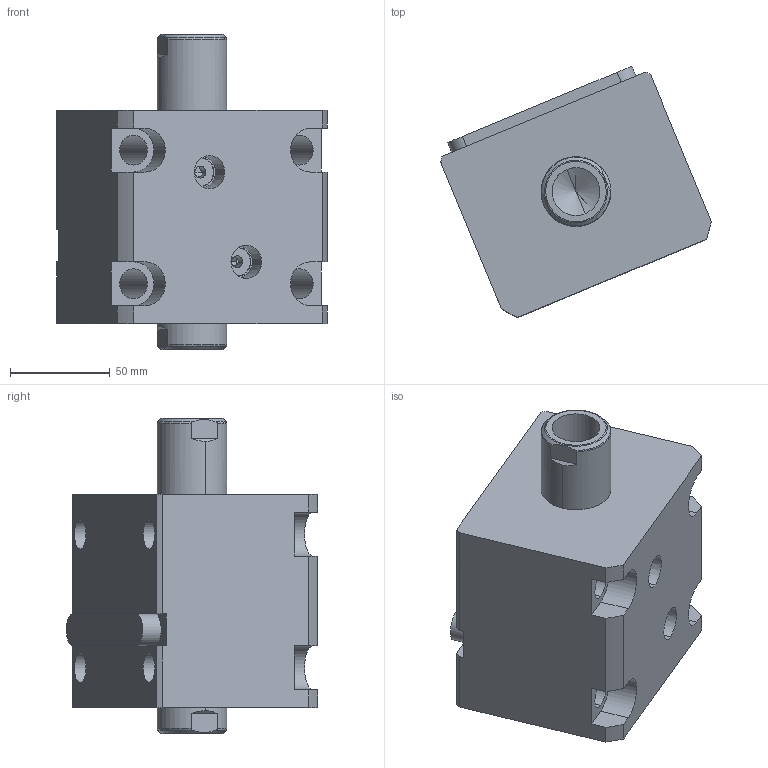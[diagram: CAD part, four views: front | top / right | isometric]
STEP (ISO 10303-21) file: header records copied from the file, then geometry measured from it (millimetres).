
FILE_DESCRIPTION (( 'STEP AP214' ), '1' );
FILE_NAME ('chtb-lw63x25n_asm.STEP', '2018-05-03T07:06:56', ( 'Windows' ), ( 'Microsoft' ), 'SwSTEP 2.0', 'SolidWorks 2015', '' );
FILE_SCHEMA (( 'AUTOMOTIVE_DESIGN' ));
Length unit declared in the file: millimetre
Products named in the file (5): CHTB-SW63X25NHSG; CHTB-LW63X25NBT; CHTB-LA63PJ; CHTB-63QG; chtb-lw63x25n_asm
Assembly tree (4 placements, depth 2):
  chtb-lw63x25n_asm
    CHTB-63QG
    CHTB-LA63PJ
    CHTB-LW63X25NBT
    CHTB-SW63X25NHSG
Bounding box: 135.77 x 126.06 x 158 mm (x, y, z)
Volume: 980609.1 mm3; surface area: 151028.7 mm2
Topology: 4 solids, 4 shells, 194 faces, 563 edges, 381 vertices
Faces by surface type: cylinder 104, plane 50, cone 16, bspline 12, torus 12
Entity records: 18887 total; most frequent: CARTESIAN_POINT 13868, ORIENTED_EDGE 1110, DIRECTION 876, EDGE_CURVE 555, VERTEX_POINT 381, AXIS2_PLACEMENT_3D 336, EDGE_LOOP 222, LINE 204
